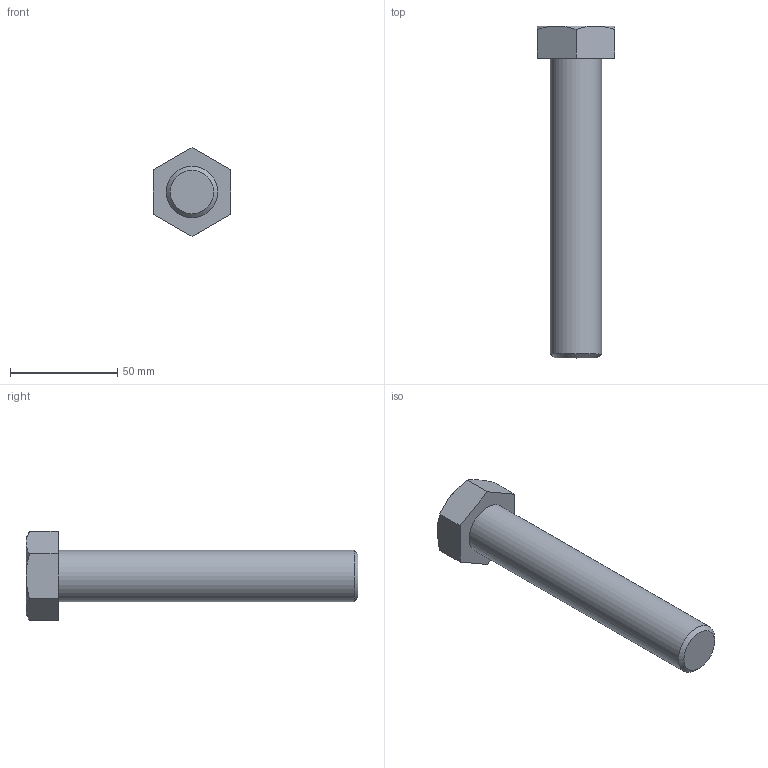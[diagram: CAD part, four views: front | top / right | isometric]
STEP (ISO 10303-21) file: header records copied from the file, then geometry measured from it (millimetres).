
FILE_DESCRIPTION(/* description */ (''),/* implementation_level */ '2;1');
FILE_NAME(/* name */ 'C:\Users\unitec\Documents\Inventor\各種小物\JIS\JIS B 1180 六角ボルト 等級C\hbc24\M24x140.stp',/* time_stamp */ '2015-02-13T14:54:28+09:00',/* author */ ('unitec'),/* organization */ (''),/* preprocessor_version */ 'ST-DEVELOPER v15.2',/* originating_system */ 'Autodesk Inventor 2014',/* authorisation */ '');
FILE_SCHEMA (('AUTOMOTIVE_DESIGN { 1 0 10303 214 3 1 1 }'));
Length unit declared in the file: millimetre
Products named in the file (1): M24x140
Bounding box: 36 x 155 x 41.57 mm (x, y, z)
Volume: 79998.3 mm3; surface area: 14532.8 mm2
Topology: 1 solids, 1 shells, 17 faces, 35 edges, 21 vertices
Faces by surface type: plane 9, cone 7, cylinder 1
Full cylindrical faces by diameter (mm): 24 x1
Entity records: 441 total; most frequent: CARTESIAN_POINT 96, ORIENTED_EDGE 66, DIRECTION 66, EDGE_CURVE 33, AXIS2_PLACEMENT_3D 27, VERTEX_POINT 21, EDGE_LOOP 20, ADVANCED_FACE 17
